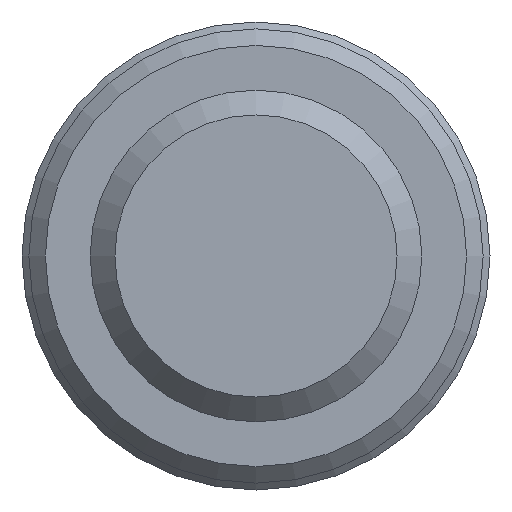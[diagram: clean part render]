
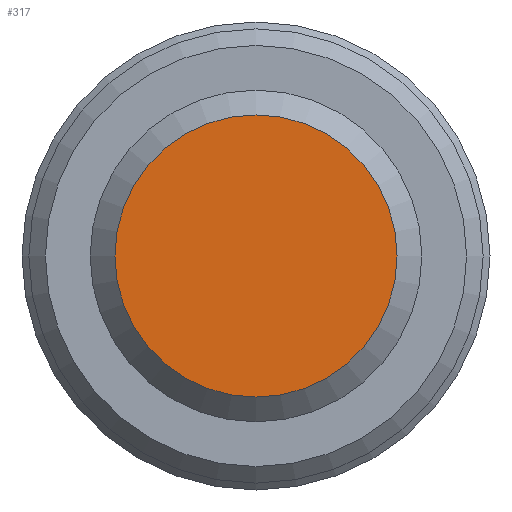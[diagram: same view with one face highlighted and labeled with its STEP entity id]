
A CAD part, front view. The second image highlights one B-rep face of the part: STEP entity #317.
In plain terms, the highlighted planar face has unit normal (0, -1, 0).
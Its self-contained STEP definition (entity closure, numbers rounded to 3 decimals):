
#301=CARTESIAN_POINT('',(1209.596,355.507,0.));
#302=VERTEX_POINT('',#301);
#303=CARTESIAN_POINT('',(1219.846,355.507,0.));
#304=DIRECTION('',(0.,1.,0.));
#305=DIRECTION('',(-1.,0.,0.));
#306=AXIS2_PLACEMENT_3D('',#303,#304,#305);
#307=CIRCLE('',#306,10.25);
#308=EDGE_CURVE('',#302,#302,#307,.T.);
#309=ORIENTED_EDGE('',*,*,#308,.F.);
#310=EDGE_LOOP('',(#309));
#311=FACE_OUTER_BOUND('',#310,.T.);
#312=CARTESIAN_POINT('',(1214.721,355.507,0.));
#313=DIRECTION('',(0.,-1.,0.));
#314=DIRECTION('',(1.,0.,0.));
#315=AXIS2_PLACEMENT_3D('',#312,#313,#314);
#316=PLANE('',#315);
#317=ADVANCED_FACE('',(#311),#316,.T.);
